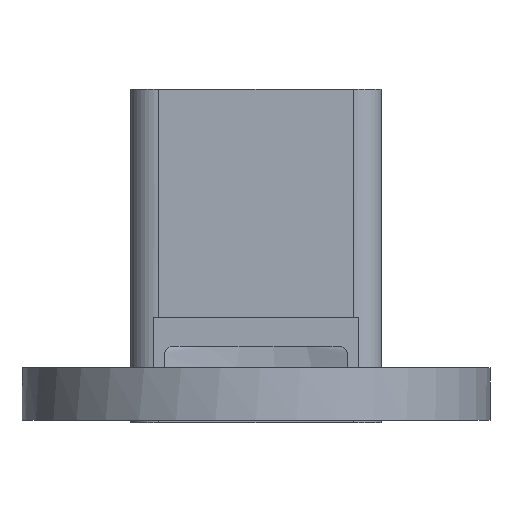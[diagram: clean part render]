
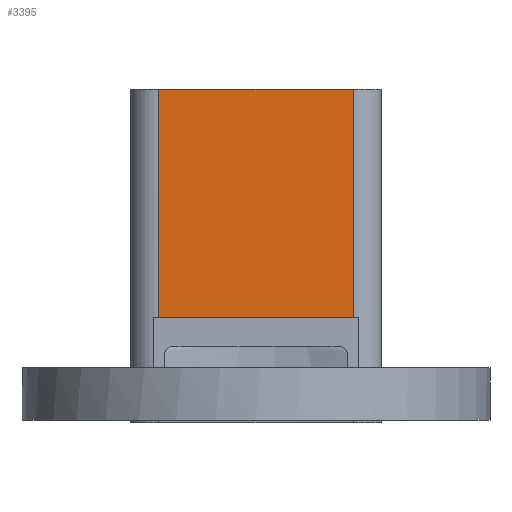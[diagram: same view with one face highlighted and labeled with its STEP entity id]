
A CAD part, front view. The second image highlights one B-rep face of the part: STEP entity #3395.
In plain terms, the highlighted planar face has unit normal (0, -1, 0).
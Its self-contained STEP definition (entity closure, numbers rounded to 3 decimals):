
#784 = PLANE('',#785);
#785 = AXIS2_PLACEMENT_3D('',#786,#787,#788);
#786 = CARTESIAN_POINT('',(-9.,22.,9.));
#787 = DIRECTION('',(0.,0.,1.));
#788 = DIRECTION('',(1.,0.,-0.));
#1000 = CYLINDRICAL_SURFACE('',#1001,2.5);
#1001 = AXIS2_PLACEMENT_3D('',#1002,#1003,#1004);
#1002 = CARTESIAN_POINT('',(-8.5,34.6,-0.2));
#1003 = DIRECTION('',(0.,0.,1.));
#1004 = DIRECTION('',(0.,-1.,0.));
#1106 = VERTEX_POINT('',#1107);
#1107 = CARTESIAN_POINT('',(-8.5,32.1,29.));
#1122 = PLANE('',#1123);
#1123 = AXIS2_PLACEMENT_3D('',#1124,#1125,#1126);
#1124 = CARTESIAN_POINT('',(11.,32.1,29.));
#1125 = DIRECTION('',(0.,0.,1.));
#1126 = DIRECTION('',(0.,1.,0.));
#1138 = EDGE_CURVE('',#1139,#1106,#1141,.T.);
#1139 = VERTEX_POINT('',#1140);
#1140 = CARTESIAN_POINT('',(-8.5,32.1,9.));
#1141 = SURFACE_CURVE('',#1142,(#1146,#1153),.PCURVE_S1.);
#1142 = LINE('',#1143,#1144);
#1143 = CARTESIAN_POINT('',(-8.5,32.1,-0.2));
#1144 = VECTOR('',#1145,1.);
#1145 = DIRECTION('',(0.,0.,1.));
#1146 = PCURVE('',#1000,#1147);
#1147 = DEFINITIONAL_REPRESENTATION('',(#1148),#1152);
#1148 = LINE('',#1149,#1150);
#1149 = CARTESIAN_POINT('',(-0.,0.));
#1150 = VECTOR('',#1151,1.);
#1151 = DIRECTION('',(-0.,1.));
#1152 = ( GEOMETRIC_REPRESENTATION_CONTEXT(2) 
PARAMETRIC_REPRESENTATION_CONTEXT() REPRESENTATION_CONTEXT('2D SPACE',''
  ) );
#1153 = PCURVE('',#1154,#1159);
#1154 = PLANE('',#1155);
#1155 = AXIS2_PLACEMENT_3D('',#1156,#1157,#1158);
#1156 = CARTESIAN_POINT('',(11.,32.1,-0.2));
#1157 = DIRECTION('',(0.,1.,0.));
#1158 = DIRECTION('',(0.,0.,1.));
#1159 = DEFINITIONAL_REPRESENTATION('',(#1160),#1164);
#1160 = LINE('',#1161,#1162);
#1161 = CARTESIAN_POINT('',(0.,-19.5));
#1162 = VECTOR('',#1163,1.);
#1163 = DIRECTION('',(1.,0.));
#1164 = ( GEOMETRIC_REPRESENTATION_CONTEXT(2) 
PARAMETRIC_REPRESENTATION_CONTEXT() REPRESENTATION_CONTEXT('2D SPACE',''
  ) );
#1254 = CYLINDRICAL_SURFACE('',#1255,2.5);
#1255 = AXIS2_PLACEMENT_3D('',#1256,#1257,#1258);
#1256 = CARTESIAN_POINT('',(8.5,34.6,-0.2));
#1257 = DIRECTION('',(0.,0.,1.));
#1258 = DIRECTION('',(0.,-1.,0.));
#3213 = VERTEX_POINT('',#3214);
#3214 = CARTESIAN_POINT('',(8.5,32.1,29.));
#3236 = EDGE_CURVE('',#3237,#3213,#3239,.T.);
#3237 = VERTEX_POINT('',#3238);
#3238 = CARTESIAN_POINT('',(8.5,32.1,9.));
#3239 = SURFACE_CURVE('',#3240,(#3244,#3251),.PCURVE_S1.);
#3240 = LINE('',#3241,#3242);
#3241 = CARTESIAN_POINT('',(8.5,32.1,-0.2));
#3242 = VECTOR('',#3243,1.);
#3243 = DIRECTION('',(0.,0.,1.));
#3244 = PCURVE('',#1254,#3245);
#3245 = DEFINITIONAL_REPRESENTATION('',(#3246),#3250);
#3246 = LINE('',#3247,#3248);
#3247 = CARTESIAN_POINT('',(0.,0.));
#3248 = VECTOR('',#3249,1.);
#3249 = DIRECTION('',(0.,1.));
#3250 = ( GEOMETRIC_REPRESENTATION_CONTEXT(2) 
PARAMETRIC_REPRESENTATION_CONTEXT() REPRESENTATION_CONTEXT('2D SPACE',''
  ) );
#3251 = PCURVE('',#1154,#3252);
#3252 = DEFINITIONAL_REPRESENTATION('',(#3253),#3257);
#3253 = LINE('',#3254,#3255);
#3254 = CARTESIAN_POINT('',(0.,-2.5));
#3255 = VECTOR('',#3256,1.);
#3256 = DIRECTION('',(1.,0.));
#3257 = ( GEOMETRIC_REPRESENTATION_CONTEXT(2) 
PARAMETRIC_REPRESENTATION_CONTEXT() REPRESENTATION_CONTEXT('2D SPACE',''
  ) );
#3366 = EDGE_CURVE('',#3213,#1106,#3367,.T.);
#3367 = SURFACE_CURVE('',#3368,(#3372,#3379),.PCURVE_S1.);
#3368 = LINE('',#3369,#3370);
#3369 = CARTESIAN_POINT('',(11.,32.1,29.));
#3370 = VECTOR('',#3371,1.);
#3371 = DIRECTION('',(-1.,0.,0.));
#3372 = PCURVE('',#1122,#3373);
#3373 = DEFINITIONAL_REPRESENTATION('',(#3374),#3378);
#3374 = LINE('',#3375,#3376);
#3375 = CARTESIAN_POINT('',(0.,0.));
#3376 = VECTOR('',#3377,1.);
#3377 = DIRECTION('',(0.,1.));
#3378 = ( GEOMETRIC_REPRESENTATION_CONTEXT(2) 
PARAMETRIC_REPRESENTATION_CONTEXT() REPRESENTATION_CONTEXT('2D SPACE',''
  ) );
#3379 = PCURVE('',#1154,#3380);
#3380 = DEFINITIONAL_REPRESENTATION('',(#3381),#3385);
#3381 = LINE('',#3382,#3383);
#3382 = CARTESIAN_POINT('',(29.2,0.));
#3383 = VECTOR('',#3384,1.);
#3384 = DIRECTION('',(0.,-1.));
#3385 = ( GEOMETRIC_REPRESENTATION_CONTEXT(2) 
PARAMETRIC_REPRESENTATION_CONTEXT() REPRESENTATION_CONTEXT('2D SPACE',''
  ) );
#3395 = ADVANCED_FACE('',(#3396),#1154,.F.);
#3396 = FACE_BOUND('',#3397,.F.);
#3397 = EDGE_LOOP('',(#3398,#3399,#3400,#3419));
#3398 = ORIENTED_EDGE('',*,*,#3366,.F.);
#3399 = ORIENTED_EDGE('',*,*,#3236,.F.);
#3400 = ORIENTED_EDGE('',*,*,#3401,.F.);
#3401 = EDGE_CURVE('',#1139,#3237,#3402,.T.);
#3402 = SURFACE_CURVE('',#3403,(#3407,#3413),.PCURVE_S1.);
#3403 = LINE('',#3404,#3405);
#3404 = CARTESIAN_POINT('',(1.,32.1,9.));
#3405 = VECTOR('',#3406,1.);
#3406 = DIRECTION('',(1.,0.,0.));
#3407 = PCURVE('',#1154,#3408);
#3408 = DEFINITIONAL_REPRESENTATION('',(#3409),#3412);
#3409 = B_SPLINE_CURVE_WITH_KNOTS('',1,(#3410,#3411),.UNSPECIFIED.,.F.,
  .F.,(2,2),(-9.5,7.5),.PIECEWISE_BEZIER_KNOTS.);
#3410 = CARTESIAN_POINT('',(9.2,-19.5));
#3411 = CARTESIAN_POINT('',(9.2,-2.5));
#3412 = ( GEOMETRIC_REPRESENTATION_CONTEXT(2) 
PARAMETRIC_REPRESENTATION_CONTEXT() REPRESENTATION_CONTEXT('2D SPACE',''
  ) );
#3413 = PCURVE('',#784,#3414);
#3414 = DEFINITIONAL_REPRESENTATION('',(#3415),#3418);
#3415 = B_SPLINE_CURVE_WITH_KNOTS('',1,(#3416,#3417),.UNSPECIFIED.,.F.,
  .F.,(2,2),(-9.5,7.5),.PIECEWISE_BEZIER_KNOTS.);
#3416 = CARTESIAN_POINT('',(0.5,10.1));
#3417 = CARTESIAN_POINT('',(17.5,10.1));
#3418 = ( GEOMETRIC_REPRESENTATION_CONTEXT(2) 
PARAMETRIC_REPRESENTATION_CONTEXT() REPRESENTATION_CONTEXT('2D SPACE',''
  ) );
#3419 = ORIENTED_EDGE('',*,*,#1138,.T.);
